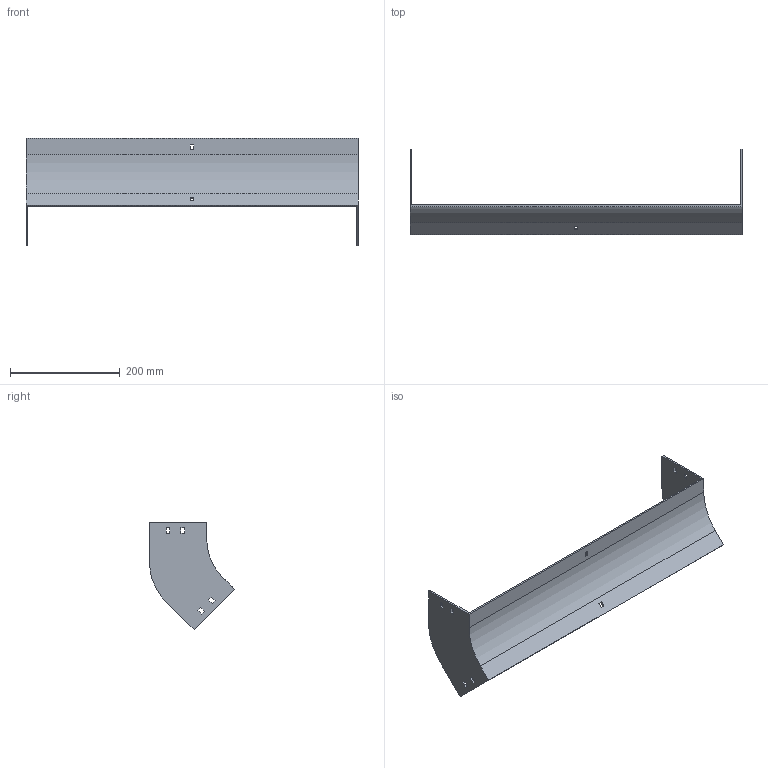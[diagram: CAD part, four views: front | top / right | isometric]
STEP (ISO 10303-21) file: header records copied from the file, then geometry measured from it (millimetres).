
FILE_DESCRIPTION (( 'STEP AP214' ), '1' );
FILE_NAME ('34F1D600.step', '2025-02-21T12:50:36', ( '' ), ( '' ), 'SwSTEP 2.0', 'SolidWorks 2023', '' );
FILE_SCHEMA (( 'AUTOMOTIVE_DESIGN' ));
Length unit declared in the file: millimetre
Products named in the file (1): 34F1D600
Bounding box: 604 x 154.5 x 195.46 mm (x, y, z)
Volume: 425331.8 mm3; surface area: 251414 mm2
Topology: 1 solids, 1 shells, 58 faces, 168 edges, 112 vertices
Faces by surface type: plane 54, cylinder 4
Entity records: 1943 total; most frequent: CARTESIAN_POINT 339, ORIENTED_EDGE 336, DIRECTION 294, EDGE_CURVE 168, VECTOR 160, LINE 160, VERTEX_POINT 112, EDGE_LOOP 78
